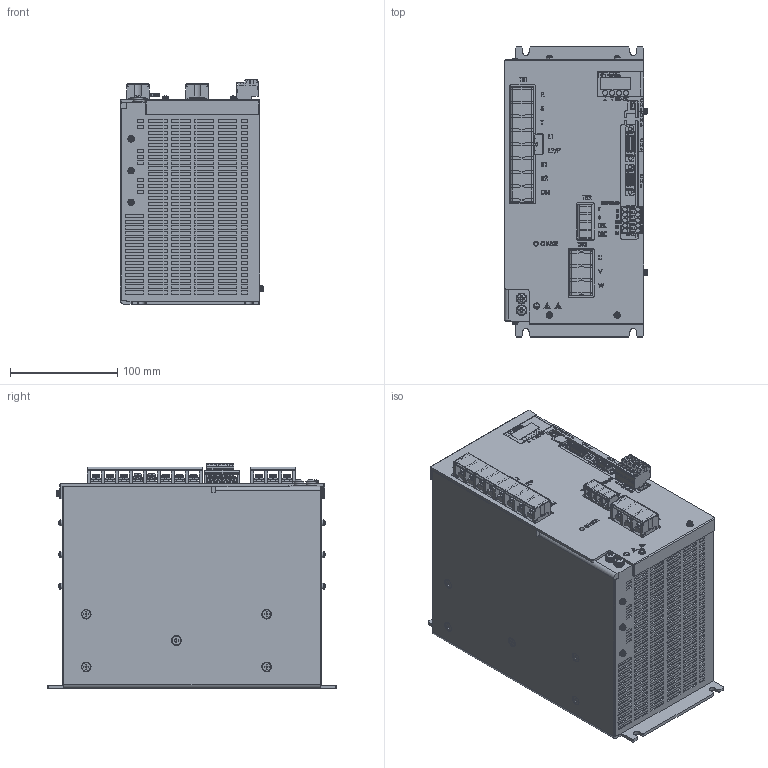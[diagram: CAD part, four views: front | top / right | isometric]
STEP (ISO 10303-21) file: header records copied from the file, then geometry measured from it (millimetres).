
FILE_DESCRIPTION (( 'STEP AP214' ), '1' );
FILE_NAME ('NCR-HC2_332#SE-78550A.STEP', '2020-02-12T00:13:48', ( '' ), ( '' ), 'SwSTEP 2.0', 'SolidWorks 2018', '' );
FILE_SCHEMA (( 'AUTOMOTIVE_DESIGN' ));
Length unit declared in the file: millimetre
Products named in the file (1): NCR-HC2_332#SE-78550A
Bounding box: 133.45 x 270 x 209.15 mm (x, y, z)
Volume: 5982763.3 mm3; surface area: 290065.5 mm2
Topology: 5 solids, 51 shells, 8981 faces, 24170 edges, 15782 vertices
Faces by surface type: plane 6820, cylinder 1200, bspline 582, cone 224, torus 125, sphere 30
Entity records: 408214 total; most frequent: CARTESIAN_POINT 86257, ORIENTED_EDGE 48292, DIRECTION 42380, EDGE_CURVE 24146, LINE 18832, VECTOR 18832, VERTEX_POINT 15782, AXIS2_PLACEMENT_3D 11774
